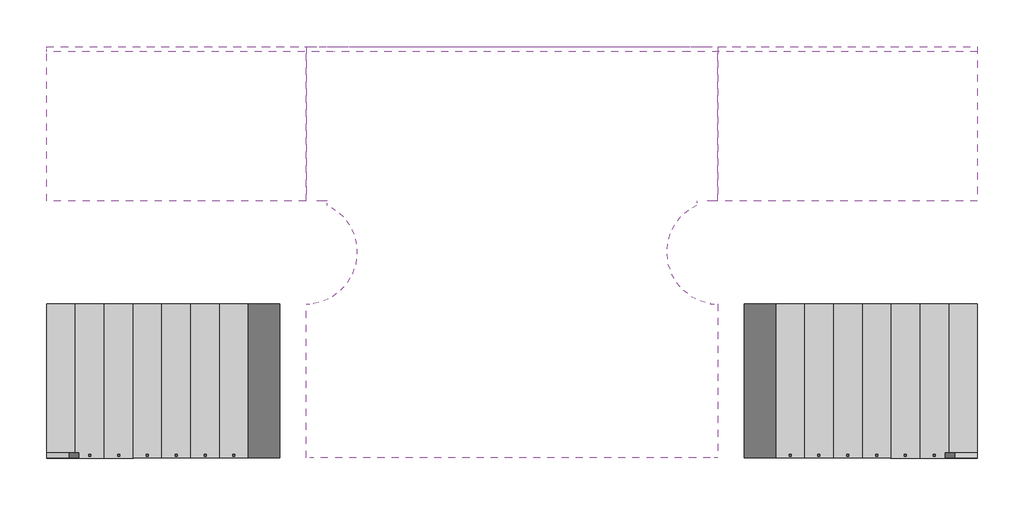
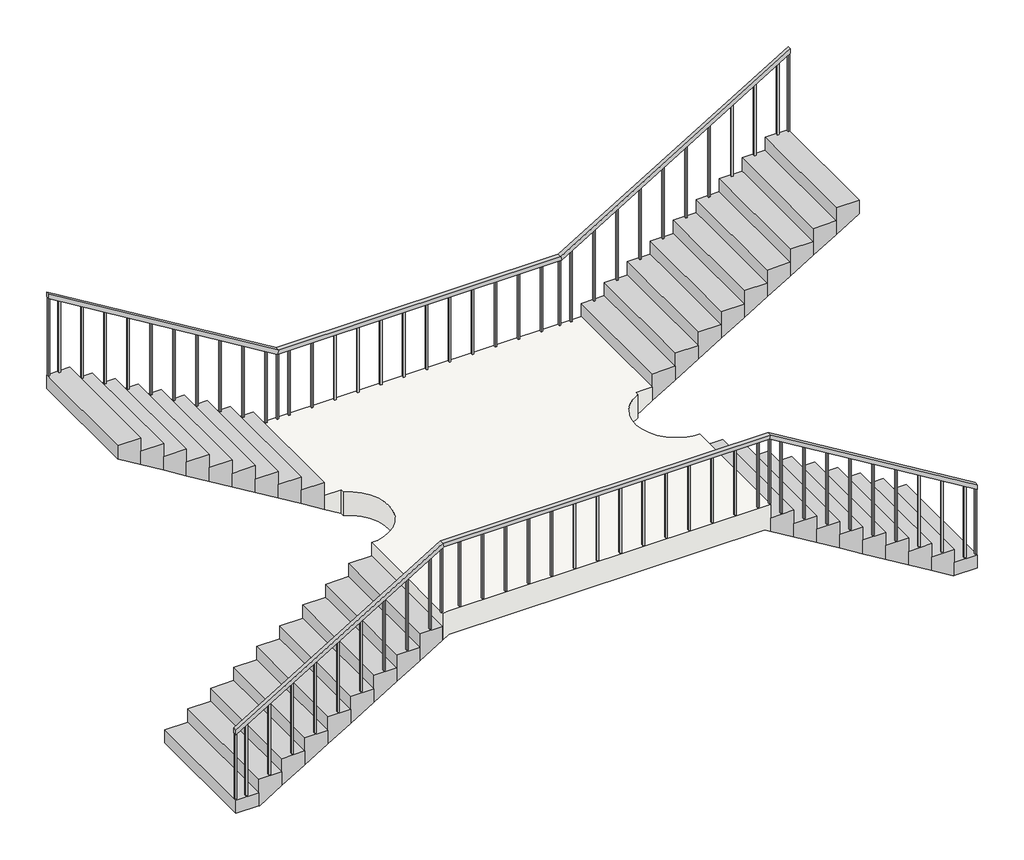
# One storey, incomplete: 4 stair flights, 2 railings, 1 slab.
"""IFC4 building model written with IfcOpenShell, lengths in millimetres."""

from ifc_helpers import new_model, si_unit, frame, origin, place, context, project, spatial, polyline, circle_curve, outline, extrude, faceted_brep, element, save
from ifc_brep_helpers import plane_surface, revolved_surface, advanced_brep

model = new_model("IFC4")

# Units and contexts
model_context = context("Model", 3, world=origin())
ifc_project = project(units=[si_unit("LENGTHUNIT", "METRE", prefix="MILLI")], contexts=[model_context])

# Site, building, storey
site = spatial("IfcSite", under=ifc_project)
building = spatial("IfcBuilding", under=site)
storey = spatial("IfcBuildingStorey", under=building, Name="标高 1", Elevation=0.0)

# Railings
placement = place(None, origin())
element("IfcRailing", 1, ObjectType="900mm", at=placement, inside=storey, context=model_context, shape_type="SolidModel", body=[
    faceted_brep([(-3011.1071565, -5308.646602, 1070.0), (-3011.1071565, -5308.646602, 1011.5059309), (-3011.1071565, -5258.646602, 1011.5059309), (-3011.1071565, -5258.646602, 1070.0), (-5531.1071565, -5308.646602, 2600.0), (-5545.097388, -5308.646602, 2550.0), (-5545.097388, -5258.646602, 2550.0), (-5531.1071565, -5258.646602, 2600.0), (-12051.1071565, -5308.646602, 1070.0), (-12051.1071565, -5258.646602, 1070.0), (-12051.1071565, -5258.646602, 1011.5059309), (-12051.1071565, -5308.646602, 1011.5059309), (-9517.116925, -5308.646602, 2550.0), (-9531.1071565, -5308.646602, 2600.0), (-9517.116925, -5258.646602, 2550.0), (-9531.1071565, -5258.646602, 2600.0)], [[[0, 1, 2, 3]], [[1, 0, 4, 5]], [[2, 1, 5, 6]], [[3, 2, 6, 7]], [[0, 3, 7, 4]], [[8, 9, 10, 11]], [[12, 13, 8, 11]], [[14, 12, 11, 10]], [[15, 14, 10, 9]], [[13, 15, 9, 8]], [[5, 4, 13, 12]], [[6, 5, 12, 14]], [[7, 6, 14, 15]], [[4, 7, 15, 13]]]),
    extrude(outline(polyline([(1102.5773594, -11901.1071565), (1090.4345023, -11921.1071565), (170.0, -11921.1071565), (170.0, -11901.1071565), (1102.5773594, -11901.1071565)])), frame((0.0, -5293.646602, 0.0), z_axis=(0.0, 1.0, 0.0), x_axis=(0.0, 0.0, 1.0)), (0.0, 0.0, 1.0), 20.0),
    extrude(outline(polyline([(1272.5773594, -11621.1071565), (1260.4345023, -11641.1071565), (340.0, -11641.1071565), (340.0, -11621.1071565), (1272.5773594, -11621.1071565)])), frame((0.0, -5293.646602, 0.0), z_axis=(0.0, 1.0, 0.0), x_axis=(0.0, 0.0, 1.0)), (0.0, 0.0, 1.0), 20.0),
    extrude(outline(polyline([(1442.5773594, -11341.1071565), (1430.4345023, -11361.1071565), (510.0, -11361.1071565), (510.0, -11341.1071565), (1442.5773594, -11341.1071565)])), frame((0.0, -5293.646602, 0.0), z_axis=(0.0, 1.0, 0.0), x_axis=(0.0, 0.0, 1.0)), (0.0, 0.0, 1.0), 20.0),
    extrude(outline(polyline([(1612.5773594, -11061.1071565), (1600.4345023, -11081.1071565), (680.0, -11081.1071565), (680.0, -11061.1071565), (1612.5773594, -11061.1071565)])), frame((0.0, -5293.646602, 0.0), z_axis=(0.0, 1.0, 0.0), x_axis=(0.0, 0.0, 1.0)), (0.0, 0.0, 1.0), 20.0),
    extrude(outline(polyline([(1782.5773594, -10781.1071565), (1770.4345023, -10801.1071565), (850.0, -10801.1071565), (850.0, -10781.1071565), (1782.5773594, -10781.1071565)])), frame((0.0, -5293.646602, 0.0), z_axis=(0.0, 1.0, 0.0), x_axis=(0.0, 0.0, 1.0)), (0.0, 0.0, 1.0), 20.0),
    extrude(outline(polyline([(1952.5773594, -10501.1071565), (1940.4345023, -10521.1071565), (1020.0, -10521.1071565), (1020.0, -10501.1071565), (1952.5773594, -10501.1071565)])), frame((0.0, -5293.646602, 0.0), z_axis=(0.0, 1.0, 0.0), x_axis=(0.0, 0.0, 1.0)), (0.0, 0.0, 1.0), 20.0),
    extrude(outline(polyline([(2122.5773594, -10221.1071565), (2110.4345023, -10241.1071565), (1190.0, -10241.1071565), (1190.0, -10221.1071565), (2122.5773594, -10221.1071565)])), frame((0.0, -5293.646602, 0.0), z_axis=(0.0, 1.0, 0.0), x_axis=(0.0, 0.0, 1.0)), (0.0, 0.0, 1.0), 20.0),
    extrude(outline(polyline([(2292.5773594, -9941.1071565), (2280.4345023, -9961.1071565), (1360.0, -9961.1071565), (1360.0, -9941.1071565), (2292.5773594, -9941.1071565)])), frame((0.0, -5293.646602, 0.0), z_axis=(0.0, 1.0, 0.0), x_axis=(0.0, 0.0, 1.0)), (0.0, 0.0, 1.0), 20.0),
    extrude(outline(polyline([(2462.5773594, -9661.1071565), (2450.4345023, -9681.1071565), (1530.0, -9681.1071565), (1530.0, -9661.1071565), (2462.5773594, -9661.1071565)])), frame((0.0, -5293.646602, 0.0), z_axis=(0.0, 1.0, 0.0), x_axis=(0.0, 0.0, 1.0)), (0.0, 0.0, 1.0), 20.0),
    extrude(outline(polyline([(-9301.1071565, -5293.646602), (-9321.1071565, -5293.646602), (-9321.1071565, -5273.646602), (-9301.1071565, -5273.646602), (-9301.1071565, -5293.646602)])), frame((0.0, 0.0, 1700.0), z_axis=(0.0, 0.0, 1.0), x_axis=(1.0, 0.0, 0.0)), (0.0, 0.0, 1.0), 850.0),
    extrude(outline(polyline([(-9021.1071565, -5293.646602), (-9041.1071565, -5293.646602), (-9041.1071565, -5273.646602), (-9021.1071565, -5273.646602), (-9021.1071565, -5293.646602)])), frame((0.0, 0.0, 1700.0), z_axis=(0.0, 0.0, 1.0), x_axis=(1.0, 0.0, 0.0)), (0.0, 0.0, 1.0), 850.0),
    extrude(outline(polyline([(-8741.1071565, -5293.646602), (-8761.1071565, -5293.646602), (-8761.1071565, -5273.646602), (-8741.1071565, -5273.646602), (-8741.1071565, -5293.646602)])), frame((0.0, 0.0, 1700.0), z_axis=(0.0, 0.0, 1.0), x_axis=(1.0, 0.0, 0.0)), (0.0, 0.0, 1.0), 850.0),
    extrude(outline(polyline([(-8461.1071565, -5293.646602), (-8481.1071565, -5293.646602), (-8481.1071565, -5273.646602), (-8461.1071565, -5273.646602), (-8461.1071565, -5293.646602)])), frame((0.0, 0.0, 1700.0), z_axis=(0.0, 0.0, 1.0), x_axis=(1.0, 0.0, 0.0)), (0.0, 0.0, 1.0), 850.0),
    extrude(outline(polyline([(-8181.1071565, -5293.646602), (-8201.1071565, -5293.646602), (-8201.1071565, -5273.646602), (-8181.1071565, -5273.646602), (-8181.1071565, -5293.646602)])), frame((0.0, 0.0, 1700.0), z_axis=(0.0, 0.0, 1.0), x_axis=(1.0, 0.0, 0.0)), (0.0, 0.0, 1.0), 850.0),
    extrude(outline(polyline([(-7901.1071565, -5293.646602), (-7921.1071565, -5293.646602), (-7921.1071565, -5273.646602), (-7901.1071565, -5273.646602), (-7901.1071565, -5293.646602)])), frame((0.0, 0.0, 1700.0), z_axis=(0.0, 0.0, 1.0), x_axis=(1.0, 0.0, 0.0)), (0.0, 0.0, 1.0), 850.0),
    extrude(outline(polyline([(-7621.1071565, -5293.646602), (-7641.1071565, -5293.646602), (-7641.1071565, -5273.646602), (-7621.1071565, -5273.646602), (-7621.1071565, -5293.646602)])), frame((0.0, 0.0, 1700.0), z_axis=(0.0, 0.0, 1.0), x_axis=(1.0, 0.0, 0.0)), (0.0, 0.0, 1.0), 850.0),
    extrude(outline(polyline([(-7341.1071565, -5293.646602), (-7361.1071565, -5293.646602), (-7361.1071565, -5273.646602), (-7341.1071565, -5273.646602), (-7341.1071565, -5293.646602)])), frame((0.0, 0.0, 1700.0), z_axis=(0.0, 0.0, 1.0), x_axis=(1.0, 0.0, 0.0)), (0.0, 0.0, 1.0), 850.0),
    extrude(outline(polyline([(-7061.1071565, -5293.646602), (-7081.1071565, -5293.646602), (-7081.1071565, -5273.646602), (-7061.1071565, -5273.646602), (-7061.1071565, -5293.646602)])), frame((0.0, 0.0, 1700.0), z_axis=(0.0, 0.0, 1.0), x_axis=(1.0, 0.0, 0.0)), (0.0, 0.0, 1.0), 850.0),
    extrude(outline(polyline([(-6781.1071565, -5293.646602), (-6801.1071565, -5293.646602), (-6801.1071565, -5273.646602), (-6781.1071565, -5273.646602), (-6781.1071565, -5293.646602)])), frame((0.0, 0.0, 1700.0), z_axis=(0.0, 0.0, 1.0), x_axis=(1.0, 0.0, 0.0)), (0.0, 0.0, 1.0), 850.0),
    extrude(outline(polyline([(-6501.1071565, -5293.646602), (-6521.1071565, -5293.646602), (-6521.1071565, -5273.646602), (-6501.1071565, -5273.646602), (-6501.1071565, -5293.646602)])), frame((0.0, 0.0, 1700.0), z_axis=(0.0, 0.0, 1.0), x_axis=(1.0, 0.0, 0.0)), (0.0, 0.0, 1.0), 850.0),
    extrude(outline(polyline([(-6221.1071565, -5293.646602), (-6241.1071565, -5293.646602), (-6241.1071565, -5273.646602), (-6221.1071565, -5273.646602), (-6221.1071565, -5293.646602)])), frame((0.0, 0.0, 1700.0), z_axis=(0.0, 0.0, 1.0), x_axis=(1.0, 0.0, 0.0)), (0.0, 0.0, 1.0), 850.0),
    extrude(outline(polyline([(-5941.1071565, -5293.646602), (-5961.1071565, -5293.646602), (-5961.1071565, -5273.646602), (-5941.1071565, -5273.646602), (-5941.1071565, -5293.646602)])), frame((0.0, 0.0, 1700.0), z_axis=(0.0, 0.0, 1.0), x_axis=(1.0, 0.0, 0.0)), (0.0, 0.0, 1.0), 850.0),
    extrude(outline(polyline([(-5661.1071565, -5293.646602), (-5681.1071565, -5293.646602), (-5681.1071565, -5273.646602), (-5661.1071565, -5273.646602), (-5661.1071565, -5293.646602)])), frame((0.0, 0.0, 1700.0), z_axis=(0.0, 0.0, 1.0), x_axis=(1.0, 0.0, 0.0)), (0.0, 0.0, 1.0), 850.0),
    extrude(outline(polyline([(2450.4345023, -5381.1071565), (2462.5773594, -5401.1071565), (1530.0, -5401.1071565), (1530.0, -5381.1071565), (2450.4345023, -5381.1071565)])), frame((0.0, -5293.646602, 0.0), z_axis=(0.0, 1.0, 0.0), x_axis=(0.0, 0.0, 1.0)), (0.0, 0.0, 1.0), 20.0),
    extrude(outline(polyline([(2280.4345023, -5101.1071565), (2292.5773594, -5121.1071565), (1360.0, -5121.1071565), (1360.0, -5101.1071565), (2280.4345023, -5101.1071565)])), frame((0.0, -5293.646602, 0.0), z_axis=(0.0, 1.0, 0.0), x_axis=(0.0, 0.0, 1.0)), (0.0, 0.0, 1.0), 20.0),
    extrude(outline(polyline([(2110.4345023, -4821.1071565), (2122.5773594, -4841.1071565), (1190.0, -4841.1071565), (1190.0, -4821.1071565), (2110.4345023, -4821.1071565)])), frame((0.0, -5293.646602, 0.0), z_axis=(0.0, 1.0, 0.0), x_axis=(0.0, 0.0, 1.0)), (0.0, 0.0, 1.0), 20.0),
    extrude(outline(polyline([(1940.4345023, -4541.1071565), (1952.5773594, -4561.1071565), (1020.0, -4561.1071565), (1020.0, -4541.1071565), (1940.4345023, -4541.1071565)])), frame((0.0, -5293.646602, 0.0), z_axis=(0.0, 1.0, 0.0), x_axis=(0.0, 0.0, 1.0)), (0.0, 0.0, 1.0), 20.0),
    extrude(outline(polyline([(1770.4345023, -4261.1071565), (1782.5773594, -4281.1071565), (850.0, -4281.1071565), (850.0, -4261.1071565), (1770.4345023, -4261.1071565)])), frame((0.0, -5293.646602, 0.0), z_axis=(0.0, 1.0, 0.0), x_axis=(0.0, 0.0, 1.0)), (0.0, 0.0, 1.0), 20.0),
    extrude(outline(polyline([(1600.4345023, -3981.1071565), (1612.5773594, -4001.1071565), (680.0, -4001.1071565), (680.0, -3981.1071565), (1600.4345023, -3981.1071565)])), frame((0.0, -5293.646602, 0.0), z_axis=(0.0, 1.0, 0.0), x_axis=(0.0, 0.0, 1.0)), (0.0, 0.0, 1.0), 20.0),
    extrude(outline(polyline([(1430.4345023, -3701.1071565), (1442.5773594, -3721.1071565), (510.0, -3721.1071565), (510.0, -3701.1071565), (1430.4345023, -3701.1071565)])), frame((0.0, -5293.646602, 0.0), z_axis=(0.0, 1.0, 0.0), x_axis=(0.0, 0.0, 1.0)), (0.0, 0.0, 1.0), 20.0),
    extrude(outline(polyline([(1260.4345023, -3421.1071565), (1272.5773594, -3441.1071565), (340.0, -3441.1071565), (340.0, -3421.1071565), (1260.4345023, -3421.1071565)])), frame((0.0, -5293.646602, 0.0), z_axis=(0.0, 1.0, 0.0), x_axis=(0.0, 0.0, 1.0)), (0.0, 0.0, 1.0), 20.0),
    extrude(outline(polyline([(1090.4345023, -3141.1071565), (1102.5773594, -3161.1071565), (170.0, -3161.1071565), (170.0, -3141.1071565), (1090.4345023, -3141.1071565)])), frame((0.0, -5293.646602, 0.0), z_axis=(0.0, 1.0, 0.0), x_axis=(0.0, 0.0, 1.0)), (0.0, 0.0, 1.0), 20.0),
    extrude(outline(polyline([(-9521.1071565, -5293.646602), (-9541.1071565, -5293.646602), (-9541.1071565, -5273.646602), (-9521.1071565, -5273.646602), (-9521.1071565, -5293.646602)])), frame((0.0, 0.0, 1700.0), z_axis=(0.0, 0.0, 1.0), x_axis=(1.0, 0.0, 0.0)), (0.0, 0.0, 1.0), 850.0),
    extrude(outline(polyline([(2535.4345023, -5521.1071565), (2547.5773594, -5541.1071565), (1700.0, -5541.1071565), (1700.0, -5521.1071565), (2535.4345023, -5521.1071565)])), frame((0.0, -5293.646602, 0.0), z_axis=(0.0, 1.0, 0.0), x_axis=(0.0, 0.0, 1.0)), (0.0, 0.0, 1.0), 20.0),
    extrude(outline(polyline([(1023.648788, -12031.1071565), (1011.5059309, -12051.1071565), (170.0, -12051.1071565), (170.0, -12031.1071565), (1023.648788, -12031.1071565)])), frame((0.0, -5293.646602, 0.0), z_axis=(0.0, 1.0, 0.0), x_axis=(0.0, 0.0, 1.0)), (0.0, 0.0, 1.0), 20.0),
    extrude(outline(polyline([(1011.5059309, -3011.1071565), (1023.648788, -3031.1071565), (170.0, -3031.1071565), (170.0, -3011.1071565), (1011.5059309, -3011.1071565)])), frame((0.0, -5293.646602, 0.0), z_axis=(0.0, 1.0, 0.0), x_axis=(0.0, 0.0, 1.0)), (0.0, 0.0, 1.0), 20.0),
])
element("IfcRailing", 2, ObjectType="900mm", at=placement, inside=storey, context=model_context, shape_type="SolidModel", body=[
    faceted_brep([(-12051.1071565, -1309.446602, 4300.0), (-12051.1071565, -1309.446602, 4241.5059309), (-12051.1071565, -1359.446602, 4241.5059309), (-12051.1071565, -1359.446602, 4300.0), (-9251.1071565, -1309.446602, 2600.0), (-9265.097388, -1309.446602, 2550.0), (-9265.097388, -1359.446602, 2550.0), (-9251.1071565, -1359.446602, 2600.0), (-5811.1071565, -1309.446602, 2600.0), (-5797.116925, -1309.446602, 2550.0), (-5797.116925, -1359.446602, 2550.0), (-5811.1071565, -1359.446602, 2600.0), (-3011.1071565, -1309.446602, 4300.0), (-3011.1071565, -1359.446602, 4300.0), (-3011.1071565, -1359.446602, 4241.5059309), (-3011.1071565, -1309.446602, 4241.5059309)], [[[0, 1, 2, 3]], [[1, 0, 4, 5]], [[2, 1, 5, 6]], [[3, 2, 6, 7]], [[0, 3, 7, 4]], [[5, 4, 8, 9]], [[6, 5, 9, 10]], [[7, 6, 10, 11]], [[4, 7, 11, 8]], [[12, 13, 14, 15]], [[9, 8, 12, 15]], [[10, 9, 15, 14]], [[11, 10, 14, 13]], [[8, 11, 13, 12]]]),
    extrude(outline(polyline([(3230.0, -3161.1071565), (3230.0, -3141.1071565), (4162.5773594, -3141.1071565), (4150.4345023, -3161.1071565), (3230.0, -3161.1071565)])), frame((0.0, -1344.446602, 0.0), z_axis=(0.0, 1.0, 0.0), x_axis=(0.0, 0.0, 1.0)), (0.0, 0.0, 1.0), 20.0),
    extrude(outline(polyline([(3060.0, -3441.1071565), (3060.0, -3421.1071565), (3992.5773594, -3421.1071565), (3980.4345023, -3441.1071565), (3060.0, -3441.1071565)])), frame((0.0, -1344.446602, 0.0), z_axis=(0.0, 1.0, 0.0), x_axis=(0.0, 0.0, 1.0)), (0.0, 0.0, 1.0), 20.0),
    extrude(outline(polyline([(2890.0, -3721.1071565), (2890.0, -3701.1071565), (3822.5773594, -3701.1071565), (3810.4345023, -3721.1071565), (2890.0, -3721.1071565)])), frame((0.0, -1344.446602, 0.0), z_axis=(0.0, 1.0, 0.0), x_axis=(0.0, 0.0, 1.0)), (0.0, 0.0, 1.0), 20.0),
    extrude(outline(polyline([(2720.0, -4001.1071565), (2720.0, -3981.1071565), (3652.5773594, -3981.1071565), (3640.4345023, -4001.1071565), (2720.0, -4001.1071565)])), frame((0.0, -1344.446602, 0.0), z_axis=(0.0, 1.0, 0.0), x_axis=(0.0, 0.0, 1.0)), (0.0, 0.0, 1.0), 20.0),
    extrude(outline(polyline([(2550.0, -4281.1071565), (2550.0, -4261.1071565), (3482.5773594, -4261.1071565), (3470.4345023, -4281.1071565), (2550.0, -4281.1071565)])), frame((0.0, -1344.446602, 0.0), z_axis=(0.0, 1.0, 0.0), x_axis=(0.0, 0.0, 1.0)), (0.0, 0.0, 1.0), 20.0),
    extrude(outline(polyline([(2380.0, -4561.1071565), (2380.0, -4541.1071565), (3312.5773594, -4541.1071565), (3300.4345023, -4561.1071565), (2380.0, -4561.1071565)])), frame((0.0, -1344.446602, 0.0), z_axis=(0.0, 1.0, 0.0), x_axis=(0.0, 0.0, 1.0)), (0.0, 0.0, 1.0), 20.0),
    extrude(outline(polyline([(2210.0, -4841.1071565), (2210.0, -4821.1071565), (3142.5773594, -4821.1071565), (3130.4345023, -4841.1071565), (2210.0, -4841.1071565)])), frame((0.0, -1344.446602, 0.0), z_axis=(0.0, 1.0, 0.0), x_axis=(0.0, 0.0, 1.0)), (0.0, 0.0, 1.0), 20.0),
    extrude(outline(polyline([(2040.0, -5121.1071565), (2040.0, -5101.1071565), (2972.5773594, -5101.1071565), (2960.4345023, -5121.1071565), (2040.0, -5121.1071565)])), frame((0.0, -1344.446602, 0.0), z_axis=(0.0, 1.0, 0.0), x_axis=(0.0, 0.0, 1.0)), (0.0, 0.0, 1.0), 20.0),
    extrude(outline(polyline([(1870.0, -5401.1071565), (1870.0, -5381.1071565), (2802.5773594, -5381.1071565), (2790.4345023, -5401.1071565), (1870.0, -5401.1071565)])), frame((0.0, -1344.446602, 0.0), z_axis=(0.0, 1.0, 0.0), x_axis=(0.0, 0.0, 1.0)), (0.0, 0.0, 1.0), 20.0),
    extrude(outline(polyline([(1700.0, -5681.1071565), (1700.0, -5661.1071565), (2632.5773594, -5661.1071565), (2620.4345023, -5681.1071565), (1700.0, -5681.1071565)])), frame((0.0, -1344.446602, 0.0), z_axis=(0.0, 1.0, 0.0), x_axis=(0.0, 0.0, 1.0)), (0.0, 0.0, 1.0), 20.0),
    extrude(outline(polyline([(-6041.1071565, -1324.446602), (-6021.1071565, -1324.446602), (-6021.1071565, -1344.446602), (-6041.1071565, -1344.446602), (-6041.1071565, -1324.446602)])), frame((0.0, 0.0, 1700.0), z_axis=(0.0, 0.0, 1.0), x_axis=(1.0, 0.0, 0.0)), (0.0, 0.0, 1.0), 850.0),
    extrude(outline(polyline([(-6321.1071565, -1324.446602), (-6301.1071565, -1324.446602), (-6301.1071565, -1344.446602), (-6321.1071565, -1344.446602), (-6321.1071565, -1324.446602)])), frame((0.0, 0.0, 1700.0), z_axis=(0.0, 0.0, 1.0), x_axis=(1.0, 0.0, 0.0)), (0.0, 0.0, 1.0), 850.0),
    extrude(outline(polyline([(-6601.1071565, -1324.446602), (-6581.1071565, -1324.446602), (-6581.1071565, -1344.446602), (-6601.1071565, -1344.446602), (-6601.1071565, -1324.446602)])), frame((0.0, 0.0, 1700.0), z_axis=(0.0, 0.0, 1.0), x_axis=(1.0, 0.0, 0.0)), (0.0, 0.0, 1.0), 850.0),
    extrude(outline(polyline([(-6881.1071565, -1324.446602), (-6861.1071565, -1324.446602), (-6861.1071565, -1344.446602), (-6881.1071565, -1344.446602), (-6881.1071565, -1324.446602)])), frame((0.0, 0.0, 1700.0), z_axis=(0.0, 0.0, 1.0), x_axis=(1.0, 0.0, 0.0)), (0.0, 0.0, 1.0), 850.0),
    extrude(outline(polyline([(-7161.1071565, -1324.446602), (-7141.1071565, -1324.446602), (-7141.1071565, -1344.446602), (-7161.1071565, -1344.446602), (-7161.1071565, -1324.446602)])), frame((0.0, 0.0, 1700.0), z_axis=(0.0, 0.0, 1.0), x_axis=(1.0, 0.0, 0.0)), (0.0, 0.0, 1.0), 850.0),
    extrude(outline(polyline([(-7441.1071565, -1324.446602), (-7421.1071565, -1324.446602), (-7421.1071565, -1344.446602), (-7441.1071565, -1344.446602), (-7441.1071565, -1324.446602)])), frame((0.0, 0.0, 1700.0), z_axis=(0.0, 0.0, 1.0), x_axis=(1.0, 0.0, 0.0)), (0.0, 0.0, 1.0), 850.0),
    extrude(outline(polyline([(-7721.1071565, -1324.446602), (-7701.1071565, -1324.446602), (-7701.1071565, -1344.446602), (-7721.1071565, -1344.446602), (-7721.1071565, -1324.446602)])), frame((0.0, 0.0, 1700.0), z_axis=(0.0, 0.0, 1.0), x_axis=(1.0, 0.0, 0.0)), (0.0, 0.0, 1.0), 850.0),
    extrude(outline(polyline([(-8001.1071565, -1324.446602), (-7981.1071565, -1324.446602), (-7981.1071565, -1344.446602), (-8001.1071565, -1344.446602), (-8001.1071565, -1324.446602)])), frame((0.0, 0.0, 1700.0), z_axis=(0.0, 0.0, 1.0), x_axis=(1.0, 0.0, 0.0)), (0.0, 0.0, 1.0), 850.0),
    extrude(outline(polyline([(-8281.1071565, -1324.446602), (-8261.1071565, -1324.446602), (-8261.1071565, -1344.446602), (-8281.1071565, -1344.446602), (-8281.1071565, -1324.446602)])), frame((0.0, 0.0, 1700.0), z_axis=(0.0, 0.0, 1.0), x_axis=(1.0, 0.0, 0.0)), (0.0, 0.0, 1.0), 850.0),
    extrude(outline(polyline([(-8561.1071565, -1324.446602), (-8541.1071565, -1324.446602), (-8541.1071565, -1344.446602), (-8561.1071565, -1344.446602), (-8561.1071565, -1324.446602)])), frame((0.0, 0.0, 1700.0), z_axis=(0.0, 0.0, 1.0), x_axis=(1.0, 0.0, 0.0)), (0.0, 0.0, 1.0), 850.0),
    extrude(outline(polyline([(-8841.1071565, -1324.446602), (-8821.1071565, -1324.446602), (-8821.1071565, -1344.446602), (-8841.1071565, -1344.446602), (-8841.1071565, -1324.446602)])), frame((0.0, 0.0, 1700.0), z_axis=(0.0, 0.0, 1.0), x_axis=(1.0, 0.0, 0.0)), (0.0, 0.0, 1.0), 850.0),
    extrude(outline(polyline([(-9121.1071565, -1324.446602), (-9101.1071565, -1324.446602), (-9101.1071565, -1344.446602), (-9121.1071565, -1344.446602), (-9121.1071565, -1324.446602)])), frame((0.0, 0.0, 1700.0), z_axis=(0.0, 0.0, 1.0), x_axis=(1.0, 0.0, 0.0)), (0.0, 0.0, 1.0), 850.0),
    extrude(outline(polyline([(1700.0, -9401.1071565), (1700.0, -9381.1071565), (2620.4345023, -9381.1071565), (2632.5773594, -9401.1071565), (1700.0, -9401.1071565)])), frame((0.0, -1344.446602, 0.0), z_axis=(0.0, 1.0, 0.0), x_axis=(0.0, 0.0, 1.0)), (0.0, 0.0, 1.0), 20.0),
    extrude(outline(polyline([(1870.0, -9681.1071565), (1870.0, -9661.1071565), (2790.4345023, -9661.1071565), (2802.5773594, -9681.1071565), (1870.0, -9681.1071565)])), frame((0.0, -1344.446602, 0.0), z_axis=(0.0, 1.0, 0.0), x_axis=(0.0, 0.0, 1.0)), (0.0, 0.0, 1.0), 20.0),
    extrude(outline(polyline([(2040.0, -9961.1071565), (2040.0, -9941.1071565), (2960.4345023, -9941.1071565), (2972.5773594, -9961.1071565), (2040.0, -9961.1071565)])), frame((0.0, -1344.446602, 0.0), z_axis=(0.0, 1.0, 0.0), x_axis=(0.0, 0.0, 1.0)), (0.0, 0.0, 1.0), 20.0),
    extrude(outline(polyline([(2210.0, -10241.1071565), (2210.0, -10221.1071565), (3130.4345023, -10221.1071565), (3142.5773594, -10241.1071565), (2210.0, -10241.1071565)])), frame((0.0, -1344.446602, 0.0), z_axis=(0.0, 1.0, 0.0), x_axis=(0.0, 0.0, 1.0)), (0.0, 0.0, 1.0), 20.0),
    extrude(outline(polyline([(2380.0, -10521.1071565), (2380.0, -10501.1071565), (3300.4345023, -10501.1071565), (3312.5773594, -10521.1071565), (2380.0, -10521.1071565)])), frame((0.0, -1344.446602, 0.0), z_axis=(0.0, 1.0, 0.0), x_axis=(0.0, 0.0, 1.0)), (0.0, 0.0, 1.0), 20.0),
    extrude(outline(polyline([(2550.0, -10801.1071565), (2550.0, -10781.1071565), (3470.4345023, -10781.1071565), (3482.5773594, -10801.1071565), (2550.0, -10801.1071565)])), frame((0.0, -1344.446602, 0.0), z_axis=(0.0, 1.0, 0.0), x_axis=(0.0, 0.0, 1.0)), (0.0, 0.0, 1.0), 20.0),
    extrude(outline(polyline([(2720.0, -11081.1071565), (2720.0, -11061.1071565), (3640.4345023, -11061.1071565), (3652.5773594, -11081.1071565), (2720.0, -11081.1071565)])), frame((0.0, -1344.446602, 0.0), z_axis=(0.0, 1.0, 0.0), x_axis=(0.0, 0.0, 1.0)), (0.0, 0.0, 1.0), 20.0),
    extrude(outline(polyline([(2890.0, -11361.1071565), (2890.0, -11341.1071565), (3810.4345023, -11341.1071565), (3822.5773594, -11361.1071565), (2890.0, -11361.1071565)])), frame((0.0, -1344.446602, 0.0), z_axis=(0.0, 1.0, 0.0), x_axis=(0.0, 0.0, 1.0)), (0.0, 0.0, 1.0), 20.0),
    extrude(outline(polyline([(3060.0, -11641.1071565), (3060.0, -11621.1071565), (3980.4345023, -11621.1071565), (3992.5773594, -11641.1071565), (3060.0, -11641.1071565)])), frame((0.0, -1344.446602, 0.0), z_axis=(0.0, 1.0, 0.0), x_axis=(0.0, 0.0, 1.0)), (0.0, 0.0, 1.0), 20.0),
    extrude(outline(polyline([(3230.0, -11921.1071565), (3230.0, -11901.1071565), (4150.4345023, -11901.1071565), (4162.5773594, -11921.1071565), (3230.0, -11921.1071565)])), frame((0.0, -1344.446602, 0.0), z_axis=(0.0, 1.0, 0.0), x_axis=(0.0, 0.0, 1.0)), (0.0, 0.0, 1.0), 20.0),
    extrude(outline(polyline([(-5821.1071565, -1324.446602), (-5801.1071565, -1324.446602), (-5801.1071565, -1344.446602), (-5821.1071565, -1344.446602), (-5821.1071565, -1324.446602)])), frame((0.0, 0.0, 1700.0), z_axis=(0.0, 0.0, 1.0), x_axis=(1.0, 0.0, 0.0)), (0.0, 0.0, 1.0), 850.0),
    extrude(outline(polyline([(-9261.1071565, -1324.446602), (-9241.1071565, -1324.446602), (-9241.1071565, -1344.446602), (-9261.1071565, -1344.446602), (-9261.1071565, -1324.446602)])), frame((0.0, 0.0, 1700.0), z_axis=(0.0, 0.0, 1.0), x_axis=(1.0, 0.0, 0.0)), (0.0, 0.0, 1.0), 850.0),
    extrude(outline(polyline([(3230.0, -3031.1071565), (3230.0, -3011.1071565), (4241.5059309, -3011.1071565), (4229.3630737, -3031.1071565), (3230.0, -3031.1071565)])), frame((0.0, -1344.446602, 0.0), z_axis=(0.0, 1.0, 0.0), x_axis=(0.0, 0.0, 1.0)), (0.0, 0.0, 1.0), 20.0),
    extrude(outline(polyline([(3230.0, -12051.1071565), (3230.0, -12031.1071565), (4229.3630737, -12031.1071565), (4241.5059309, -12051.1071565), (3230.0, -12051.1071565)])), frame((0.0, -1344.446602, 0.0), z_axis=(0.0, 1.0, 0.0), x_axis=(0.0, 0.0, 1.0)), (0.0, 0.0, 1.0), 20.0),
])

# Slab
element("IfcSlab", 3, ObjectType="300mm 厚度", at=placement, inside=storey, context=model_context, shape_type="AdvancedBrep", body=[
    advanced_brep(
    [(-5531.1071565, -2809.046602, 1700.0), (-5531.1071565, -1309.046602, 1700.0), (-5736.1952855, -1309.046602, 1700.0), (-9326.0190274, -1309.046602, 1700.0), (-9531.1071565, -1309.046602, 1700.0), (-9531.1071565, -2809.046602, 1700.0), (-9326.0190274, -2809.046602, 1700.0), (-9326.0190274, -2853.0434668, 1700.0), (-9456.1952855, -3803.402963, 1700.0), (-9456.1952855, -3809.046602, 1700.0), (-9531.1071565, -3809.046602, 1700.0), (-9531.1071565, -5309.046602, 1700.0), (-9456.1952855, -5309.046602, 1700.0), (-5606.0190274, -5309.046602, 1700.0), (-5531.1071565, -5309.046602, 1700.0), (-5531.1071565, -3809.046602, 1700.0), (-5606.0190274, -3809.046602, 1700.0), (-5606.0190274, -3803.402963, 1700.0), (-5736.1952855, -2853.0434668, 1700.0), (-5736.1952855, -2809.046602, 1700.0), (-9531.1071565, -5309.046602, 1530.0), (-9531.1071565, -5309.046602, 1354.5177926), (-9456.1952855, -5309.046602, 1400.0), (-5606.0190274, -5309.046602, 1400.0), (-5531.1071565, -5309.046602, 1354.5177926), (-5531.1071565, -5309.046602, 1530.0), (-5531.1071565, -3809.046602, 1354.5177926), (-5531.1071565, -3809.046602, 1530.0), (-5531.1071565, -1309.046602, 1524.5177926), (-5736.1952855, -1309.046602, 1400.0), (-9326.0190274, -1309.046602, 1400.0), (-9531.1071565, -1309.046602, 1524.5177926), (-9456.1952855, -3809.046602, 1400.0), (-9456.1952855, -3803.402963, 1400.0), (-9326.0190274, -2853.0434668, 1400.0), (-9326.0190274, -2809.046602, 1400.0), (-5736.1952855, -2809.046602, 1400.0), (-5736.1952855, -2853.0434668, 1400.0), (-5606.0190274, -3803.402963, 1400.0), (-5606.0190274, -3809.046602, 1400.0), (-9531.1071565, -3809.046602, 1354.5177926), (-9531.1071565, -3809.046602, 1530.0), (-5531.1071565, -2809.046602, 1524.5177926), (-9531.1071565, -2809.046602, 1524.5177926)],
    [
        (0, 1),
        (1, 2),
        (2, 3),
        (3, 4),
        (4, 5),
        (5, 6),
        (6, 7),
        (7, 8, circle_curve(frame((-9531.1071565, -3309.046602, 1700.0), z_axis=(0.0, 0.0, -1.0), x_axis=(1.0, 0.0, 0.0)), 500.0)),
        (8, 9),
        (9, 10),
        (10, 11),
        (11, 12),
        (12, 13),
        (13, 14),
        (14, 15),
        (15, 16),
        (16, 17),
        (17, 18, circle_curve(frame((-5531.1071565, -3309.046602, 1700.0), z_axis=(0.0, 0.0, -1.0), x_axis=(1.0, 0.0, 0.0)), 500.0)),
        (18, 19),
        (19, 0),
        (11, 20),
        (20, 21),
        (21, 22),
        (22, 23),
        (23, 24),
        (24, 25),
        (25, 14),
        (24, 26),
        (26, 27),
        (27, 15),
        (1, 28),
        (28, 29),
        (29, 30),
        (30, 31),
        (31, 4),
        (32, 33),
        (33, 34, circle_curve(frame((-9531.1071565, -3309.046602, 1400.0), z_axis=(0.0, 0.0, 1.0), x_axis=(1.0, 0.0, 0.0)), 500.0)),
        (34, 35),
        (35, 30),
        (29, 36),
        (36, 37),
        (37, 38, circle_curve(frame((-5531.1071565, -3309.046602, 1400.0), z_axis=(0.0, 0.0, 1.0), x_axis=(1.0, 0.0, 0.0)), 500.0)),
        (38, 39),
        (39, 23),
        (22, 32),
        (38, 17),
        (16, 39),
        (21, 40),
        (40, 32),
        (40, 41),
        (41, 10),
        (9, 32),
        (28, 42),
        (42, 36),
        (42, 0),
        (19, 36),
        (31, 43),
        (43, 5),
        (34, 7),
        (6, 35),
        (39, 26),
        (35, 43),
        (18, 37),
        (8, 33),
    ],
    [
        plane_surface(frame((-5531.1071565, -1309.046602, 1700.0), z_axis=(0.0, 0.0, 1.0), x_axis=(0.0, 1.0, 0.0))),
        plane_surface(frame((-9531.1071565, -5309.046602, 1700.0), z_axis=(0.0, -1.0, 0.0), x_axis=(0.0, 0.0, -1.0))),
        plane_surface(frame((-5531.1071565, -5309.046602, 1700.0), z_axis=(1.0, 0.0, 0.0), x_axis=(0.0, 0.0, -1.0))),
        plane_surface(frame((-5531.1071565, -1309.046602, 1700.0), z_axis=(0.0, 1.0, 0.0), x_axis=(0.0, 0.0, -1.0))),
        plane_surface(frame((-5736.1952855, -1309.046602, 1400.0), z_axis=(0.0, 0.0, -1.0), x_axis=(0.0, -1.0, 0.0))),
        plane_surface(frame((-5606.0190274, -5309.046602, 2080.0), z_axis=(1.0, 0.0, 0.0), x_axis=(0.0, 0.0, -1.0))),
        plane_surface(frame((-12051.1071565, -4559.046602, -175.4822074), z_axis=(0.5189781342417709, 0.0, -0.8547875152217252), x_axis=(0.854787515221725, 0.0, 0.5189781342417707))),
        plane_surface(frame((-12051.1071565, -3809.046602, -175.4822074), z_axis=(0.0, 1.0, 0.0), x_axis=(0.0, 0.0, 1.0))),
        plane_surface(frame((-5531.1071565, -2059.046602, 1524.5177926), z_axis=(0.5189781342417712, 0.0, -0.854787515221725), x_axis=(0.8547875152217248, 0.0, 0.5189781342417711))),
        plane_surface(frame((-3011.1071565, -2809.046602, 3054.5177926), z_axis=(0.0, -1.0, 0.0), x_axis=(0.0, 0.0, 1.0))),
        plane_surface(frame((-9531.1071565, -1309.046602, 1700.0), z_axis=(-1.0, 0.0, 0.0), x_axis=(0.0, 0.0, -1.0))),
        plane_surface(frame((-9326.0190274, -1309.046602, 2080.0), z_axis=(-1.0, 0.0, 0.0), x_axis=(0.0, 0.0, -1.0))),
        plane_surface(frame((-3011.1071565, -4559.046602, -175.4822074), z_axis=(-0.5189781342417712, 0.0, -0.854787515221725), x_axis=(0.8547875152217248, 0.0, -0.5189781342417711))),
        plane_surface(frame((-5606.0190274, -3809.046602, 1400.0), z_axis=(0.0, 1.0, 0.0), x_axis=(0.0, 0.0, 1.0))),
        plane_surface(frame((-9531.1071565, -2059.046602, 1524.5177926), z_axis=(-0.5189781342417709, 0.0, -0.8547875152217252), x_axis=(0.854787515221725, 0.0, -0.5189781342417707))),
        plane_surface(frame((-9326.0190274, -2809.046602, 1400.0), z_axis=(0.0, -1.0, 0.0), x_axis=(0.0, 0.0, 1.0))),
        plane_surface(frame((-5531.1071565, -2809.046602, 1700.0), z_axis=(1.0, 0.0, 0.0), x_axis=(0.0, 0.0, -1.0))),
        plane_surface(frame((-9531.1071565, -3809.046602, 1700.0), z_axis=(-1.0, 0.0, 0.0), x_axis=(0.0, 0.0, -1.0))),
        plane_surface(frame((-5736.1952855, -2853.0434668, 2080.0), z_axis=(1.0, 0.0, 0.0), x_axis=(0.0, 0.0, -1.0))),
        plane_surface(frame((-9456.1952855, -3803.402963, 2080.0), z_axis=(-1.0, 0.0, 0.0), x_axis=(0.0, 0.0, -1.0))),
        revolved_surface(polyline([(-9031.1071565, -3309.046602, 1400.0), (-9031.1071565, -3309.046602, 1700.0)]), (-9531.1071565, -3309.046602, 850.0), (0.0, 0.0, -1.0)),
        revolved_surface(polyline([(-5031.1071565, -3309.046602, 1400.0), (-5031.1071565, -3309.046602, 1700.0)]), (-5531.1071565, -3309.046602, 850.0), (0.0, 0.0, -1.0)),
    ],
    [
        (0, [[1, 2, 3, 4, 5, 6, 7, 8, 9, 10, 11, 12, 13, 14, 15, 16, 17, 18, 19, 20]]),
        (1, [[21, 22, 23, 24, 25, 26, 27, -14, -13, -12]]),
        (2, [[-15, -27, -26, 28, 29, 30]]),
        (3, [[31, 32, 33, 34, 35, -4, -3, -2]]),
        (4, [[36, 37, 38, 39, -33, 40, 41, 42, 43, 44, -24, 45]]),
        (5, [[-43, 46, -17, 47]]),
        (6, [[-45, -23, 48, 49]]),
        (7, [[-49, 50, 51, -10, 52]]),
        (8, [[-40, -32, 53, 54]]),
        (9, [[-54, 55, -20, 56]]),
        (10, [[-5, -35, 57, 58]]),
        (11, [[-38, 59, -7, 60]]),
        (12, [[-44, 61, -28, -25]]),
        (13, [[-61, -47, -16, -30, -29]]),
        (14, [[-39, 62, -57, -34]]),
        (15, [[-62, -60, -6, -58]]),
        (16, [[-1, -55, -53, -31]]),
        (17, [[-11, -51, -50, -48, -22, -21]]),
        (18, [[-41, -56, -19, 63]]),
        (19, [[-36, -52, -9, 64]]),
        (20, [[-8, -59, -37, -64]]),
        (21, [[-18, -46, -42, -63]]),
    ],
),
])

# Stair flights
element("IfcStairFlight", 4, ObjectType="150mm 结构深度", at=placement, inside=storey, context=model_context, shape_type="Brep", body=[
    faceted_brep([(-11771.1071565, -3809.046602, 170.0), (-12051.1071565, -3809.046602, 170.0), (-12051.1071565, -5309.046602, 170.0), (-11771.1071565, -5309.046602, 170.0), (-11771.1071565, -3809.046602, 0.0), (-12051.1071565, -3809.046602, 0.0), (-12051.1071565, -5309.046602, 0.0), (-11771.1071565, -5309.046602, 0.0), (-11491.1071565, -3809.046602, 340.0), (-11771.1071565, -3809.046602, 340.0), (-11771.1071565, -5309.046602, 340.0), (-11491.1071565, -5309.046602, 340.0), (-11491.1071565, -3809.046602, 164.5177926), (-11762.0776385, -3809.046602, 0.0), (-11762.0776385, -5309.046602, 0.0), (-11491.1071565, -5309.046602, 164.5177926), (-11211.1071565, -3809.046602, 510.0), (-11491.1071565, -3809.046602, 510.0), (-11491.1071565, -5309.046602, 510.0), (-11211.1071565, -5309.046602, 510.0), (-11211.1071565, -3809.046602, 334.5177926), (-11211.1071565, -5309.046602, 334.5177926), (-10931.1071565, -3809.046602, 680.0), (-11211.1071565, -3809.046602, 680.0), (-11211.1071565, -5309.046602, 680.0), (-10931.1071565, -5309.046602, 680.0), (-10931.1071565, -3809.046602, 504.5177926), (-10931.1071565, -5309.046602, 504.5177926), (-10651.1071565, -3809.046602, 850.0), (-10931.1071565, -3809.046602, 850.0), (-10931.1071565, -5309.046602, 850.0), (-10651.1071565, -5309.046602, 850.0), (-10651.1071565, -3809.046602, 674.5177926), (-10651.1071565, -5309.046602, 674.5177926), (-10371.1071565, -3809.046602, 1020.0), (-10651.1071565, -3809.046602, 1020.0), (-10651.1071565, -5309.046602, 1020.0), (-10371.1071565, -5309.046602, 1020.0), (-10371.1071565, -3809.046602, 844.5177926), (-10371.1071565, -5309.046602, 844.5177926), (-10091.1071565, -3809.046602, 1190.0), (-10371.1071565, -3809.046602, 1190.0), (-10371.1071565, -5309.046602, 1190.0), (-10091.1071565, -5309.046602, 1190.0), (-10091.1071565, -3809.046602, 1014.5177926), (-10091.1071565, -5309.046602, 1014.5177926), (-9811.1071565, -3809.046602, 1360.0), (-10091.1071565, -3809.046602, 1360.0), (-10091.1071565, -5309.046602, 1360.0), (-9811.1071565, -5309.046602, 1360.0), (-9811.1071565, -3809.046602, 1184.5177926), (-9811.1071565, -5309.046602, 1184.5177926), (-9531.1071565, -3809.046602, 1530.0), (-9811.1071565, -3809.046602, 1530.0), (-9811.1071565, -5309.046602, 1530.0), (-9531.1071565, -5309.046602, 1530.0), (-9531.1071565, -3809.046602, 1354.5177926), (-9531.1071565, -5309.046602, 1354.5177926)], [[[0, 1, 2, 3]], [[1, 0, 4, 5]], [[2, 1, 5, 6]], [[3, 2, 6, 7]], [[8, 9, 10, 11]], [[4, 0, 9, 8, 12, 13]], [[0, 3, 10, 9]], [[3, 7, 14, 15, 11, 10]], [[16, 17, 18, 19]], [[17, 16, 20, 12, 8]], [[8, 11, 18, 17]], [[19, 18, 11, 15, 21]], [[22, 23, 24, 25]], [[23, 22, 26, 20, 16]], [[16, 19, 24, 23]], [[25, 24, 19, 21, 27]], [[28, 29, 30, 31]], [[29, 28, 32, 26, 22]], [[22, 25, 30, 29]], [[31, 30, 25, 27, 33]], [[34, 35, 36, 37]], [[35, 34, 38, 32, 28]], [[28, 31, 36, 35]], [[37, 36, 31, 33, 39]], [[40, 41, 42, 43]], [[41, 40, 44, 38, 34]], [[34, 37, 42, 41]], [[43, 42, 37, 39, 45]], [[46, 47, 48, 49]], [[47, 46, 50, 44, 40]], [[40, 43, 48, 47]], [[49, 48, 43, 45, 51]], [[52, 53, 54, 55]], [[53, 52, 56, 50, 46]], [[46, 49, 54, 53]], [[55, 54, 49, 51, 57]], [[52, 55, 57, 56]], [[5, 4, 13, 14, 7, 6]], [[14, 13, 12, 20, 26, 32, 38, 44, 50, 56, 57, 51, 45, 39, 33, 27, 21, 15]]]),
])
element("IfcStairFlight", 5, ObjectType="150mm 结构深度", at=placement, inside=storey, context=model_context, shape_type="Brep", body=[
    faceted_brep([(-5251.1071565, -1309.046602, 1870.0), (-5531.1071565, -1309.046602, 1870.0), (-5531.1071565, -2809.046602, 1870.0), (-5251.1071565, -2809.046602, 1870.0), (-5251.1071565, -1309.046602, 1694.5177926), (-5531.1071565, -1309.046602, 1524.5177926), (-5531.1071565, -1309.046602, 1700.0), (-5531.1071565, -2809.046602, 1524.5177926), (-5531.1071565, -2809.046602, 1700.0), (-5251.1071565, -2809.046602, 1694.5177926), (-4971.1071565, -1309.046602, 2040.0), (-5251.1071565, -1309.046602, 2040.0), (-5251.1071565, -2809.046602, 2040.0), (-4971.1071565, -2809.046602, 2040.0), (-4971.1071565, -1309.046602, 1864.5177926), (-4971.1071565, -2809.046602, 1864.5177926), (-4691.1071565, -1309.046602, 2210.0), (-4971.1071565, -1309.046602, 2210.0), (-4971.1071565, -2809.046602, 2210.0), (-4691.1071565, -2809.046602, 2210.0), (-4691.1071565, -1309.046602, 2034.5177926), (-4691.1071565, -2809.046602, 2034.5177926), (-4411.1071565, -1309.046602, 2380.0), (-4691.1071565, -1309.046602, 2380.0), (-4691.1071565, -2809.046602, 2380.0), (-4411.1071565, -2809.046602, 2380.0), (-4411.1071565, -1309.046602, 2204.5177926), (-4411.1071565, -2809.046602, 2204.5177926), (-4131.1071565, -1309.046602, 2550.0), (-4411.1071565, -1309.046602, 2550.0), (-4411.1071565, -2809.046602, 2550.0), (-4131.1071565, -2809.046602, 2550.0), (-4131.1071565, -1309.046602, 2374.5177926), (-4131.1071565, -2809.046602, 2374.5177926), (-3851.1071565, -1309.046602, 2720.0), (-4131.1071565, -1309.046602, 2720.0), (-4131.1071565, -2809.046602, 2720.0), (-3851.1071565, -2809.046602, 2720.0), (-3851.1071565, -1309.046602, 2544.5177926), (-3851.1071565, -2809.046602, 2544.5177926), (-3571.1071565, -1309.046602, 2890.0), (-3851.1071565, -1309.046602, 2890.0), (-3851.1071565, -2809.046602, 2890.0), (-3571.1071565, -2809.046602, 2890.0), (-3571.1071565, -1309.046602, 2714.5177926), (-3571.1071565, -2809.046602, 2714.5177926), (-3291.1071565, -1309.046602, 3060.0), (-3571.1071565, -1309.046602, 3060.0), (-3571.1071565, -2809.046602, 3060.0), (-3291.1071565, -2809.046602, 3060.0), (-3291.1071565, -1309.046602, 2884.5177926), (-3291.1071565, -2809.046602, 2884.5177926), (-3011.1071565, -1309.046602, 3054.5177926), (-3011.1071565, -2809.046602, 3054.5177926), (-3011.1071565, -1309.046602, 3230.0), (-3291.1071565, -1309.046602, 3230.0), (-3291.1071565, -2809.046602, 3230.0), (-3011.1071565, -2809.046602, 3230.0)], [[[0, 1, 2, 3]], [[1, 0, 4, 5, 6]], [[2, 1, 6, 5, 7, 8]], [[3, 2, 8, 7, 9]], [[10, 11, 12, 13]], [[11, 10, 14, 4, 0]], [[12, 11, 0, 3]], [[13, 12, 3, 9, 15]], [[16, 17, 18, 19]], [[17, 16, 20, 14, 10]], [[18, 17, 10, 13]], [[19, 18, 13, 15, 21]], [[22, 23, 24, 25]], [[23, 22, 26, 20, 16]], [[24, 23, 16, 19]], [[25, 24, 19, 21, 27]], [[28, 29, 30, 31]], [[29, 28, 32, 26, 22]], [[30, 29, 22, 25]], [[31, 30, 25, 27, 33]], [[34, 35, 36, 37]], [[35, 34, 38, 32, 28]], [[36, 35, 28, 31]], [[37, 36, 31, 33, 39]], [[40, 41, 42, 43]], [[41, 40, 44, 38, 34]], [[42, 41, 34, 37]], [[43, 42, 37, 39, 45]], [[46, 47, 48, 49]], [[47, 46, 50, 44, 40]], [[48, 47, 40, 43]], [[49, 48, 43, 45, 51]], [[5, 4, 14, 20, 26, 32, 38, 44, 50, 52, 53, 51, 45, 39, 33, 27, 21, 15, 9, 7]], [[54, 55, 56, 57]], [[55, 54, 52, 50, 46]], [[56, 55, 46, 49]], [[57, 56, 49, 51, 53]], [[54, 57, 53, 52]]]),
])
element("IfcStairFlight", 6, ObjectType="150mm 结构深度", at=placement, inside=storey, context=model_context, shape_type="Brep", body=[
    faceted_brep([(-3291.1071565, -5309.046602, 170.0), (-3011.1071565, -5309.046602, 170.0), (-3011.1071565, -3809.046602, 170.0), (-3291.1071565, -3809.046602, 170.0), (-3291.1071565, -5309.046602, 0.0), (-3011.1071565, -5309.046602, 0.0), (-3011.1071565, -3809.046602, 0.0), (-3291.1071565, -3809.046602, 0.0), (-3571.1071565, -5309.046602, 340.0), (-3291.1071565, -5309.046602, 340.0), (-3291.1071565, -3809.046602, 340.0), (-3571.1071565, -3809.046602, 340.0), (-3571.1071565, -5309.046602, 164.5177926), (-3300.1366745, -5309.046602, 0.0), (-3300.1366745, -3809.046602, 0.0), (-3571.1071565, -3809.046602, 164.5177926), (-3851.1071565, -5309.046602, 510.0), (-3571.1071565, -5309.046602, 510.0), (-3571.1071565, -3809.046602, 510.0), (-3851.1071565, -3809.046602, 510.0), (-3851.1071565, -5309.046602, 334.5177926), (-3851.1071565, -3809.046602, 334.5177926), (-4131.1071565, -5309.046602, 680.0), (-3851.1071565, -5309.046602, 680.0), (-3851.1071565, -3809.046602, 680.0), (-4131.1071565, -3809.046602, 680.0), (-4131.1071565, -5309.046602, 504.5177926), (-4131.1071565, -3809.046602, 504.5177926), (-4411.1071565, -5309.046602, 850.0), (-4131.1071565, -5309.046602, 850.0), (-4131.1071565, -3809.046602, 850.0), (-4411.1071565, -3809.046602, 850.0), (-4411.1071565, -5309.046602, 674.5177926), (-4411.1071565, -3809.046602, 674.5177926), (-4691.1071565, -5309.046602, 1020.0), (-4411.1071565, -5309.046602, 1020.0), (-4411.1071565, -3809.046602, 1020.0), (-4691.1071565, -3809.046602, 1020.0), (-4691.1071565, -5309.046602, 844.5177926), (-4691.1071565, -3809.046602, 844.5177926), (-4971.1071565, -5309.046602, 1190.0), (-4691.1071565, -5309.046602, 1190.0), (-4691.1071565, -3809.046602, 1190.0), (-4971.1071565, -3809.046602, 1190.0), (-4971.1071565, -5309.046602, 1014.5177926), (-4971.1071565, -3809.046602, 1014.5177926), (-5251.1071565, -5309.046602, 1360.0), (-4971.1071565, -5309.046602, 1360.0), (-4971.1071565, -3809.046602, 1360.0), (-5251.1071565, -3809.046602, 1360.0), (-5251.1071565, -5309.046602, 1184.5177926), (-5251.1071565, -3809.046602, 1184.5177926), (-5531.1071565, -5309.046602, 1530.0), (-5251.1071565, -5309.046602, 1530.0), (-5251.1071565, -3809.046602, 1530.0), (-5531.1071565, -3809.046602, 1530.0), (-5531.1071565, -5309.046602, 1354.5177926), (-5531.1071565, -3809.046602, 1354.5177926)], [[[0, 1, 2, 3]], [[1, 0, 4, 5]], [[2, 1, 5, 6]], [[3, 2, 6, 7]], [[8, 9, 10, 11]], [[4, 0, 9, 8, 12, 13]], [[0, 3, 10, 9]], [[3, 7, 14, 15, 11, 10]], [[16, 17, 18, 19]], [[17, 16, 20, 12, 8]], [[8, 11, 18, 17]], [[19, 18, 11, 15, 21]], [[22, 23, 24, 25]], [[23, 22, 26, 20, 16]], [[16, 19, 24, 23]], [[25, 24, 19, 21, 27]], [[28, 29, 30, 31]], [[29, 28, 32, 26, 22]], [[22, 25, 30, 29]], [[31, 30, 25, 27, 33]], [[34, 35, 36, 37]], [[35, 34, 38, 32, 28]], [[28, 31, 36, 35]], [[37, 36, 31, 33, 39]], [[40, 41, 42, 43]], [[41, 40, 44, 38, 34]], [[34, 37, 42, 41]], [[43, 42, 37, 39, 45]], [[46, 47, 48, 49]], [[47, 46, 50, 44, 40]], [[40, 43, 48, 47]], [[49, 48, 43, 45, 51]], [[52, 53, 54, 55]], [[53, 52, 56, 50, 46]], [[46, 49, 54, 53]], [[55, 54, 49, 51, 57]], [[52, 55, 57, 56]], [[5, 4, 13, 14, 7, 6]], [[14, 13, 12, 20, 26, 32, 38, 44, 50, 56, 57, 51, 45, 39, 33, 27, 21, 15]]]),
])
element("IfcStairFlight", 7, ObjectType="150mm 结构深度", at=placement, inside=storey, context=model_context, shape_type="Brep", body=[
    faceted_brep([(-9811.1071565, -2809.046602, 1870.0), (-9531.1071565, -2809.046602, 1870.0), (-9531.1071565, -1309.046602, 1870.0), (-9811.1071565, -1309.046602, 1870.0), (-9811.1071565, -2809.046602, 1694.5177926), (-9531.1071565, -2809.046602, 1524.5177926), (-9531.1071565, -2809.046602, 1700.0), (-9531.1071565, -1309.046602, 1524.5177926), (-9531.1071565, -1309.046602, 1700.0), (-9811.1071565, -1309.046602, 1694.5177926), (-10091.1071565, -2809.046602, 2040.0), (-9811.1071565, -2809.046602, 2040.0), (-9811.1071565, -1309.046602, 2040.0), (-10091.1071565, -1309.046602, 2040.0), (-10091.1071565, -2809.046602, 1864.5177926), (-10091.1071565, -1309.046602, 1864.5177926), (-10371.1071565, -2809.046602, 2210.0), (-10091.1071565, -2809.046602, 2210.0), (-10091.1071565, -1309.046602, 2210.0), (-10371.1071565, -1309.046602, 2210.0), (-10371.1071565, -2809.046602, 2034.5177926), (-10371.1071565, -1309.046602, 2034.5177926), (-10651.1071565, -2809.046602, 2380.0), (-10371.1071565, -2809.046602, 2380.0), (-10371.1071565, -1309.046602, 2380.0), (-10651.1071565, -1309.046602, 2380.0), (-10651.1071565, -2809.046602, 2204.5177926), (-10651.1071565, -1309.046602, 2204.5177926), (-10931.1071565, -2809.046602, 2550.0), (-10651.1071565, -2809.046602, 2550.0), (-10651.1071565, -1309.046602, 2550.0), (-10931.1071565, -1309.046602, 2550.0), (-10931.1071565, -2809.046602, 2374.5177926), (-10931.1071565, -1309.046602, 2374.5177926), (-11211.1071565, -2809.046602, 2720.0), (-10931.1071565, -2809.046602, 2720.0), (-10931.1071565, -1309.046602, 2720.0), (-11211.1071565, -1309.046602, 2720.0), (-11211.1071565, -2809.046602, 2544.5177926), (-11211.1071565, -1309.046602, 2544.5177926), (-11491.1071565, -2809.046602, 2890.0), (-11211.1071565, -2809.046602, 2890.0), (-11211.1071565, -1309.046602, 2890.0), (-11491.1071565, -1309.046602, 2890.0), (-11491.1071565, -2809.046602, 2714.5177926), (-11491.1071565, -1309.046602, 2714.5177926), (-11771.1071565, -2809.046602, 3060.0), (-11491.1071565, -2809.046602, 3060.0), (-11491.1071565, -1309.046602, 3060.0), (-11771.1071565, -1309.046602, 3060.0), (-11771.1071565, -2809.046602, 2884.5177926), (-11771.1071565, -1309.046602, 2884.5177926), (-12051.1071565, -2809.046602, 3230.0), (-11771.1071565, -2809.046602, 3230.0), (-11771.1071565, -1309.046602, 3230.0), (-12051.1071565, -1309.046602, 3230.0), (-12051.1071565, -2809.046602, 3054.5177926), (-12051.1071565, -1309.046602, 3054.5177926)], [[[0, 1, 2, 3]], [[1, 0, 4, 5, 6]], [[2, 1, 6, 5, 7, 8]], [[3, 2, 8, 7, 9]], [[10, 11, 12, 13]], [[11, 10, 14, 4, 0]], [[12, 11, 0, 3]], [[13, 12, 3, 9, 15]], [[16, 17, 18, 19]], [[17, 16, 20, 14, 10]], [[18, 17, 10, 13]], [[19, 18, 13, 15, 21]], [[22, 23, 24, 25]], [[23, 22, 26, 20, 16]], [[24, 23, 16, 19]], [[25, 24, 19, 21, 27]], [[28, 29, 30, 31]], [[29, 28, 32, 26, 22]], [[30, 29, 22, 25]], [[31, 30, 25, 27, 33]], [[34, 35, 36, 37]], [[35, 34, 38, 32, 28]], [[36, 35, 28, 31]], [[37, 36, 31, 33, 39]], [[40, 41, 42, 43]], [[41, 40, 44, 38, 34]], [[42, 41, 34, 37]], [[43, 42, 37, 39, 45]], [[46, 47, 48, 49]], [[47, 46, 50, 44, 40]], [[48, 47, 40, 43]], [[49, 48, 43, 45, 51]], [[52, 53, 54, 55]], [[53, 52, 56, 50, 46]], [[54, 53, 46, 49]], [[55, 54, 49, 51, 57]], [[52, 55, 57, 56]], [[5, 4, 14, 20, 26, 32, 38, 44, 50, 56, 57, 51, 45, 39, 33, 27, 21, 15, 9, 7]]]),
])

save(model, "model.ifc")
